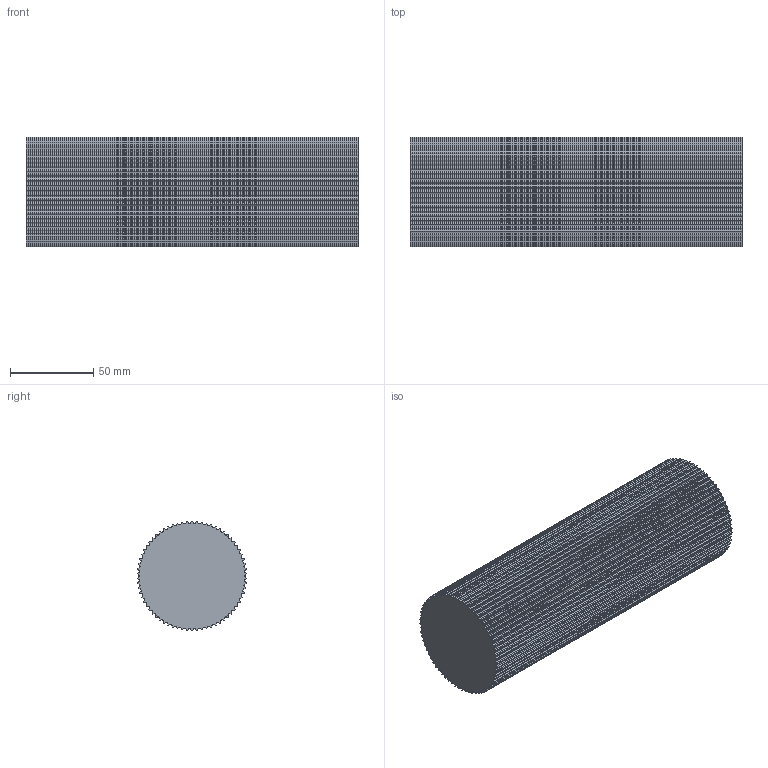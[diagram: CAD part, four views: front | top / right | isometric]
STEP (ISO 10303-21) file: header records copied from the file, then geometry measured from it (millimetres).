
FILE_DESCRIPTION( ( 'STEP AP214' ), '1' );
FILE_NAME( 'C:/Users/StangenbergN/Documents/CAD_Step/1/17097000.stp', '2019-08-23T07:12:27', ( '' ), ( '' ), ' ', 'PARTsolutions', ' ' );
FILE_SCHEMA( ( 'AUTOMOTIVE_DESIGN { 1 0 10303 214 1 1 1 1 }' ) );
Length unit declared in the file: millimetre
Products named in the file (1): _17097000
Bounding box: 200 x 66.02 x 66.08 mm (x, y, z)
Volume: 655776.2 mm3; surface area: 63467.4 mm2
Topology: 1 solids, 1 shells, 562 faces, 1680 edges, 1120 vertices
Faces by surface type: cylinder 350, plane 212
Entity records: 23716 total; most frequent: DIRECTION 3506, CARTESIAN_POINT 3363, ORIENTED_EDGE 3360, EDGE_CURVE 1680, AXIS2_PLACEMENT_3D 1263, VERTEX_POINT 1120, LINE 980, VECTOR 980
